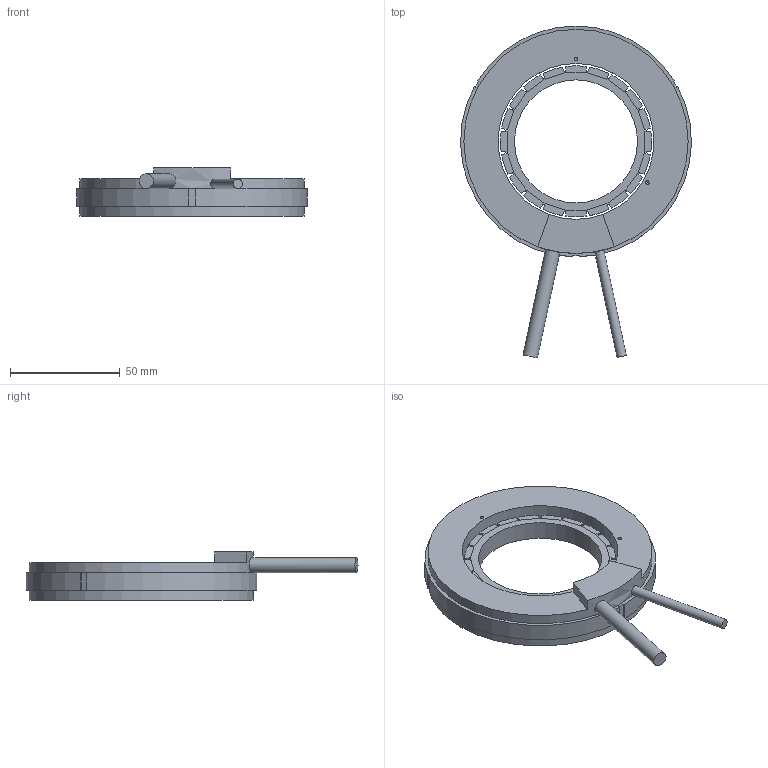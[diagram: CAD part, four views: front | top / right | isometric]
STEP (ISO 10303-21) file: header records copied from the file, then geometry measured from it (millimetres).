
FILE_DESCRIPTION(/* description */ ('Unknown'),/* implementation_level */ '2;1');
FILE_NAME(/* name */ 'Torque_QTR_105_17_YZ_Kit_CAD_180906',/* time_stamp */ '2018-09-06T16:54:53+02:00',/* author */ ('Unknown'),/* organization */ ('Unknown'),/* preprocessor_version */ 'ST-DEVELOPER v16.7',/* originating_system */ 'DEX',/* authorisation */ $);
FILE_SCHEMA (('AUTOMOTIVE_DESIGN {1 0 10303 214 3 1 1}'));
Length unit declared in the file: millimetre
Products named in the file (1): Torque_QTR_105_17_YZ_Kit_CAD_180906
Bounding box: 104.99 x 151.01 x 22 mm (x, y, z)
Volume: 90376 mm3; surface area: 27297.3 mm2
Topology: 2 solids, 2 shells, 273 faces, 720 edges, 454 vertices
Faces by surface type: plane 220, cylinder 51, cone 2
Full cylindrical faces by diameter (mm): 1.65 x2, 4.3 x1, 6.7 x1, 56 x1, 70.9 x1, 102 x2
Entity records: 8197 total; most frequent: CARTESIAN_POINT 1444, ORIENTED_EDGE 1404, DIRECTION 1350, EDGE_CURVE 702, LINE 598, VECTOR 598, VERTEX_POINT 448, AXIS2_PLACEMENT_3D 376
